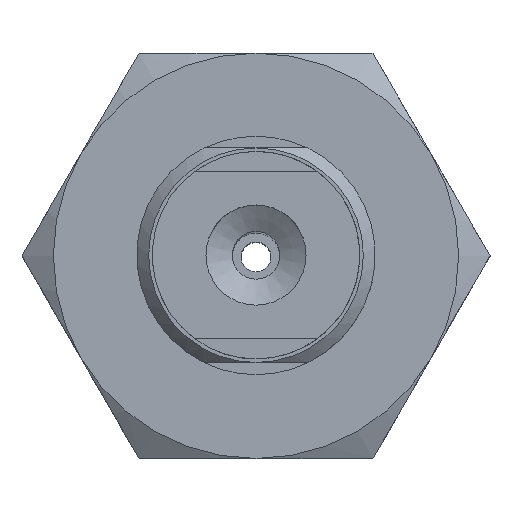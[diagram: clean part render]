
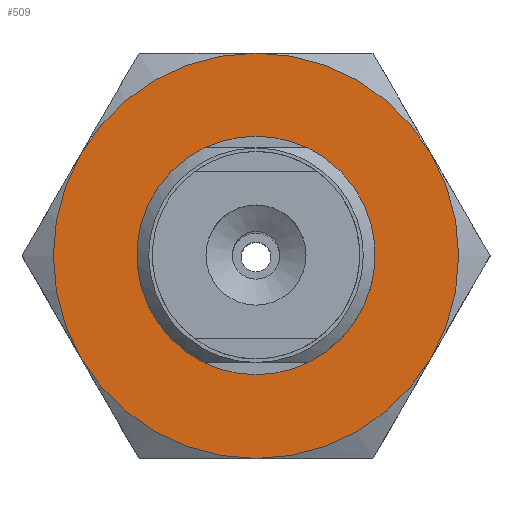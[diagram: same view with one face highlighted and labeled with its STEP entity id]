
A CAD part, top view. The second image highlights one B-rep face of the part: STEP entity #509.
In plain terms, the highlighted planar face has unit normal (0, 0, 1).
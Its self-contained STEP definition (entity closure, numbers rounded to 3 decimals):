
#509=ADVANCED_FACE('',(#721,#722),#723,.T.);
#721=FACE_BOUND('',#1027,.T.);
#722=FACE_OUTER_BOUND('',#1028,.T.);
#723=PLANE('',#1029);
#1027=EDGE_LOOP('',(#1627));
#1028=EDGE_LOOP('',(#1628,#1629,#1630,#1631,#1632,#1633));
#1029=AXIS2_PLACEMENT_3D('',#1634,#1635,#1636);
#1627=ORIENTED_EDGE('',*,*,#2094,.F.);
#1628=ORIENTED_EDGE('',*,*,#2069,.F.);
#1629=ORIENTED_EDGE('',*,*,#2084,.F.);
#1630=ORIENTED_EDGE('',*,*,#2088,.F.);
#1631=ORIENTED_EDGE('',*,*,#2092,.F.);
#1632=ORIENTED_EDGE('',*,*,#2071,.F.);
#1633=ORIENTED_EDGE('',*,*,#2064,.F.);
#1634=CARTESIAN_POINT('',(-9.815,-8.5,4.0));
#1635=DIRECTION('',(0.0,0.0,1.0));
#1636=DIRECTION('',(1.0,0.0,0.0));
#2064=EDGE_CURVE('',#2340,#2327,#2342,.T.);
#2069=EDGE_CURVE('',#2349,#2340,#2352,.T.);
#2071=EDGE_CURVE('',#2327,#2337,#2354,.T.);
#2084=EDGE_CURVE('',#2370,#2349,#2375,.T.);
#2088=EDGE_CURVE('',#2361,#2370,#2379,.T.);
#2092=EDGE_CURVE('',#2337,#2361,#2384,.T.);
#2094=EDGE_CURVE('',#2386,#2386,#2387,.T.);
#2327=VERTEX_POINT('',#2821);
#2337=VERTEX_POINT('',#2848);
#2340=VERTEX_POINT('',#2859);
#2342=CIRCLE('',#2865,8.5);
#2349=VERTEX_POINT('',#2880);
#2352=CIRCLE('',#2887,8.5);
#2354=CIRCLE('',#2893,8.5);
#2361=VERTEX_POINT('',#2909);
#2370=VERTEX_POINT('',#2935);
#2375=CIRCLE('',#2952,8.5);
#2379=CIRCLE('',#2961,8.5);
#2384=CIRCLE('',#2966,8.5);
#2386=VERTEX_POINT('',#2972);
#2387=CIRCLE('',#2973,4.5);
#2821=CARTESIAN_POINT('',(-7.361,4.25,4.0));
#2848=CARTESIAN_POINT('',(0.,8.5,4.0));
#2859=CARTESIAN_POINT('',(-7.361,-4.25,4.0));
#2865=AXIS2_PLACEMENT_3D('',#3307,#3308,#3309);
#2880=CARTESIAN_POINT('',(0.,-8.5,4.0));
#2887=AXIS2_PLACEMENT_3D('',#3313,#3314,#3315);
#2893=AXIS2_PLACEMENT_3D('',#3316,#3317,#3318);
#2909=CARTESIAN_POINT('',(7.361,4.25,4.0));
#2935=CARTESIAN_POINT('',(7.361,-4.25,4.0));
#2952=AXIS2_PLACEMENT_3D('',#3324,#3325,#3326);
#2961=AXIS2_PLACEMENT_3D('',#3331,#3332,#3333);
#2966=AXIS2_PLACEMENT_3D('',#3343,#3344,#3345);
#2972=CARTESIAN_POINT('',(0.0,-4.5,4.0));
#2973=AXIS2_PLACEMENT_3D('',#3346,#3347,#3348);
#3307=CARTESIAN_POINT('',(0.,0.,4.0));
#3308=DIRECTION('',(0.,0.,-1.0));
#3309=DIRECTION('',(0.866,0.5,0.));
#3313=CARTESIAN_POINT('',(0.,0.,4.0));
#3314=DIRECTION('',(0.,0.,-1.0));
#3315=DIRECTION('',(0.866,0.5,0.));
#3316=CARTESIAN_POINT('',(0.,0.,4.0));
#3317=DIRECTION('',(0.,0.,-1.0));
#3318=DIRECTION('',(0.866,0.5,0.));
#3324=CARTESIAN_POINT('',(0.,0.,4.0));
#3325=DIRECTION('',(0.,0.,-1.0));
#3326=DIRECTION('',(0.866,0.5,0.));
#3331=CARTESIAN_POINT('',(0.,0.,4.0));
#3332=DIRECTION('',(0.,0.,-1.0));
#3333=DIRECTION('',(0.866,0.5,0.));
#3343=CARTESIAN_POINT('',(0.,0.,4.0));
#3344=DIRECTION('',(0.,0.,-1.0));
#3345=DIRECTION('',(0.866,0.5,0.));
#3346=CARTESIAN_POINT('',(0.0,0.0,4.0));
#3347=DIRECTION('',(0.0,0.,1.0));
#3348=DIRECTION('',(0.0,-1.0,0.));
